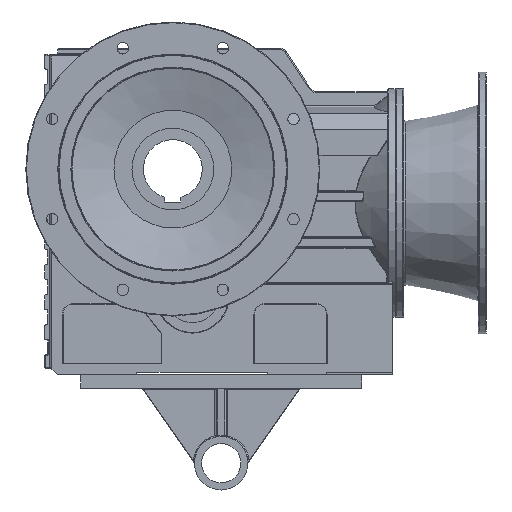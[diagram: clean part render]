
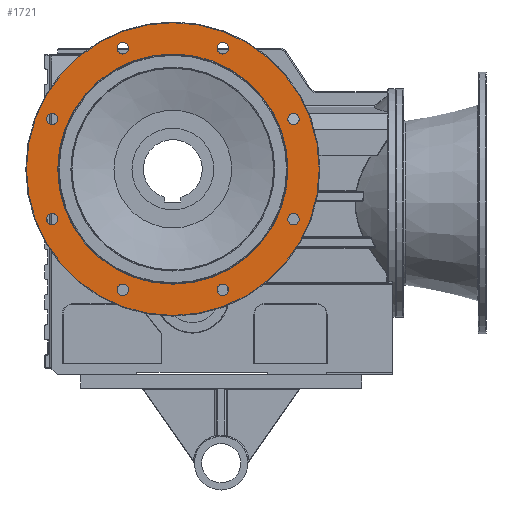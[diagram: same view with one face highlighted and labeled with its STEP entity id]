
A CAD part, front view. The second image highlights one B-rep face of the part: STEP entity #1721.
In plain terms, the highlighted planar face has unit normal (0, -1, 0).
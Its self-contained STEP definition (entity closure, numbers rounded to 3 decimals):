
#1141=CARTESIAN_POINT('',(-67.787,-43.5,184.776));
#1142=VERTEX_POINT('',#1141);
#1143=CARTESIAN_POINT('',(-76.537,-43.5,184.776));
#1144=DIRECTION('',(0.0,1.0,0.0));
#1145=DIRECTION('',(1.0,0.0,0.0));
#1146=AXIS2_PLACEMENT_3D('',#1143,#1144,#1145);
#1147=CIRCLE('',#1146,8.75);
#1148=EDGE_CURVE('',#1142,#1142,#1147,.T.);
#1190=CARTESIAN_POINT('',(85.287,-43.5,184.776));
#1191=VERTEX_POINT('',#1190);
#1192=CARTESIAN_POINT('',(76.537,-43.5,184.776));
#1193=DIRECTION('',(0.0,1.0,0.0));
#1194=DIRECTION('',(1.0,0.0,0.0));
#1195=AXIS2_PLACEMENT_3D('',#1192,#1193,#1194);
#1196=CIRCLE('',#1195,8.75);
#1197=EDGE_CURVE('',#1191,#1191,#1196,.T.);
#1239=CARTESIAN_POINT('',(85.287,-43.5,-184.776));
#1240=VERTEX_POINT('',#1239);
#1241=CARTESIAN_POINT('',(76.537,-43.5,-184.776));
#1242=DIRECTION('',(0.0,1.0,0.0));
#1243=DIRECTION('',(1.0,0.0,0.0));
#1244=AXIS2_PLACEMENT_3D('',#1241,#1242,#1243);
#1245=CIRCLE('',#1244,8.75);
#1246=EDGE_CURVE('',#1240,#1240,#1245,.T.);
#1288=CARTESIAN_POINT('',(-67.787,-43.5,-184.776));
#1289=VERTEX_POINT('',#1288);
#1290=CARTESIAN_POINT('',(-76.537,-43.5,-184.776));
#1291=DIRECTION('',(0.0,1.0,0.0));
#1292=DIRECTION('',(1.0,0.0,0.0));
#1293=AXIS2_PLACEMENT_3D('',#1290,#1291,#1292);
#1294=CIRCLE('',#1293,8.75);
#1295=EDGE_CURVE('',#1289,#1289,#1294,.T.);
#1337=CARTESIAN_POINT('',(-176.026,-43.5,76.537));
#1338=VERTEX_POINT('',#1337);
#1339=CARTESIAN_POINT('',(-184.776,-43.5,76.537));
#1340=DIRECTION('',(0.0,1.0,0.0));
#1341=DIRECTION('',(1.0,0.0,0.0));
#1342=AXIS2_PLACEMENT_3D('',#1339,#1340,#1341);
#1343=CIRCLE('',#1342,8.75);
#1344=EDGE_CURVE('',#1338,#1338,#1343,.T.);
#1386=CARTESIAN_POINT('',(-176.026,-43.5,-76.537));
#1387=VERTEX_POINT('',#1386);
#1388=CARTESIAN_POINT('',(-184.776,-43.5,-76.537));
#1389=DIRECTION('',(0.0,1.0,0.0));
#1390=DIRECTION('',(1.0,0.0,0.0));
#1391=AXIS2_PLACEMENT_3D('',#1388,#1389,#1390);
#1392=CIRCLE('',#1391,8.75);
#1393=EDGE_CURVE('',#1387,#1387,#1392,.T.);
#1435=CARTESIAN_POINT('',(193.526,-43.5,-76.537));
#1436=VERTEX_POINT('',#1435);
#1437=CARTESIAN_POINT('',(184.776,-43.5,-76.537));
#1438=DIRECTION('',(0.0,1.0,0.0));
#1439=DIRECTION('',(1.0,0.0,0.0));
#1440=AXIS2_PLACEMENT_3D('',#1437,#1438,#1439);
#1441=CIRCLE('',#1440,8.75);
#1442=EDGE_CURVE('',#1436,#1436,#1441,.T.);
#1484=CARTESIAN_POINT('',(193.526,-43.5,76.537));
#1485=VERTEX_POINT('',#1484);
#1486=CARTESIAN_POINT('',(184.776,-43.5,76.537));
#1487=DIRECTION('',(0.0,1.0,0.0));
#1488=DIRECTION('',(1.0,0.0,0.0));
#1489=AXIS2_PLACEMENT_3D('',#1486,#1487,#1488);
#1490=CIRCLE('',#1489,8.75);
#1491=EDGE_CURVE('',#1485,#1485,#1490,.T.);
#1663=CARTESIAN_POINT('',(-224.0,-43.5,0.0));
#1664=VERTEX_POINT('',#1663);
#1665=CARTESIAN_POINT('',(0.0,-43.5,0.0));
#1666=DIRECTION('',(0.0,1.0,0.0));
#1667=DIRECTION('',(1.0,0.0,0.0));
#1668=AXIS2_PLACEMENT_3D('',#1665,#1666,#1667);
#1669=CIRCLE('',#1668,224.0);
#1670=EDGE_CURVE('',#1664,#1664,#1669,.T.);
#1678=CARTESIAN_POINT('',(-200.0,-43.5,0.));
#1679=DIRECTION('',(0.0,-1.0,0.0));
#1680=DIRECTION('',(0.0,0.0,-1.0));
#1681=AXIS2_PLACEMENT_3D('',#1678,#1679,#1680);
#1682=PLANE('',#1681);
#1683=ORIENTED_EDGE('',*,*,#1670,.F.);
#1684=EDGE_LOOP('',(#1683));
#1685=FACE_OUTER_BOUND('',#1684,.T.);
#1686=ORIENTED_EDGE('',*,*,#1148,.T.);
#1687=EDGE_LOOP('',(#1686));
#1688=FACE_BOUND('',#1687,.T.);
#1689=ORIENTED_EDGE('',*,*,#1197,.T.);
#1690=EDGE_LOOP('',(#1689));
#1691=FACE_BOUND('',#1690,.T.);
#1692=ORIENTED_EDGE('',*,*,#1246,.T.);
#1693=EDGE_LOOP('',(#1692));
#1694=FACE_BOUND('',#1693,.T.);
#1695=ORIENTED_EDGE('',*,*,#1295,.T.);
#1696=EDGE_LOOP('',(#1695));
#1697=FACE_BOUND('',#1696,.T.);
#1698=ORIENTED_EDGE('',*,*,#1344,.T.);
#1699=EDGE_LOOP('',(#1698));
#1700=FACE_BOUND('',#1699,.T.);
#1701=ORIENTED_EDGE('',*,*,#1393,.T.);
#1702=EDGE_LOOP('',(#1701));
#1703=FACE_BOUND('',#1702,.T.);
#1704=ORIENTED_EDGE('',*,*,#1442,.T.);
#1705=EDGE_LOOP('',(#1704));
#1706=FACE_BOUND('',#1705,.T.);
#1707=ORIENTED_EDGE('',*,*,#1491,.T.);
#1708=EDGE_LOOP('',(#1707));
#1709=FACE_BOUND('',#1708,.T.);
#1710=CARTESIAN_POINT('',(-176.0,-43.5,0.));
#1711=VERTEX_POINT('',#1710);
#1712=CARTESIAN_POINT('',(0.0,-43.5,0.0));
#1713=DIRECTION('',(0.0,-1.0,0.0));
#1714=DIRECTION('',(1.0,0.0,0.0));
#1715=AXIS2_PLACEMENT_3D('',#1712,#1713,#1714);
#1716=CIRCLE('',#1715,176.0);
#1717=EDGE_CURVE('',#1711,#1711,#1716,.T.);
#1718=ORIENTED_EDGE('',*,*,#1717,.F.);
#1719=EDGE_LOOP('',(#1718));
#1720=FACE_BOUND('',#1719,.T.);
#1721=ADVANCED_FACE('',(#1685,#1688,#1691,#1694,#1697,#1700,#1703,#1706,#1709,#1720),#1682,.T.);
